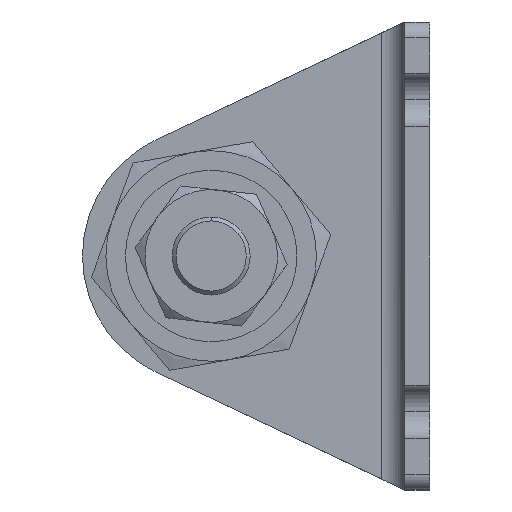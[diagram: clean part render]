
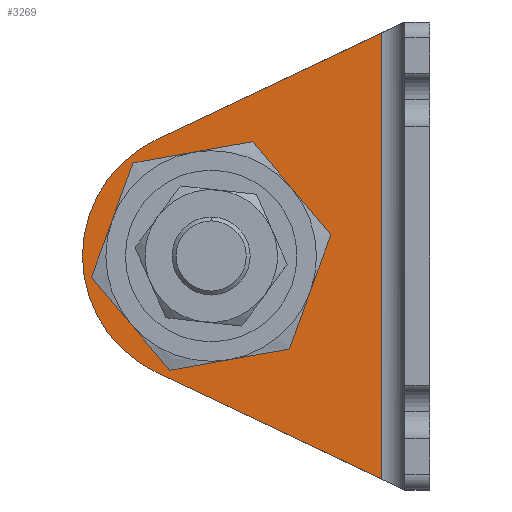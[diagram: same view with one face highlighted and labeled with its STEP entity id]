
A CAD part, left-side view. The second image highlights one B-rep face of the part: STEP entity #3269.
In plain terms, the highlighted planar face has unit normal (-1, 0, 0) as drawn and (1, 0, 0) by its records, which use the part's own axes.
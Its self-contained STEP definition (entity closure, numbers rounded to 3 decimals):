
#205 = EDGE_CURVE ( 'NONE', #404, #1587, #4832, .T. ) ;
#231 = CARTESIAN_POINT ( 'NONE',  ( 3.2, 28., -30. ) ) ;
#345 = PLANE ( 'NONE',  #3717 ) ;
#404 = VERTEX_POINT ( 'NONE', #489 ) ;
#431 = LINE ( 'NONE', #5033, #4466 ) ;
#467 = CARTESIAN_POINT ( 'NONE',  ( 3.2, 28., -30. ) ) ;
#489 = CARTESIAN_POINT ( 'NONE',  ( 3.2, 39.5, -30. ) ) ;
#523 = ORIENTED_EDGE ( 'NONE', *, *, #5247, .T. ) ;
#560 = VERTEX_POINT ( 'NONE', #3329 ) ;
#566 = CARTESIAN_POINT ( 'NONE',  ( 3.2, 6.2, -1.421 ) ) ;
#632 = EDGE_CURVE ( 'NONE', #5020, #4555, #1367, .T. ) ;
#661 = VERTEX_POINT ( 'NONE', #2587 ) ;
#688 = ORIENTED_EDGE ( 'NONE', *, *, #3258, .T. ) ;
#769 = FACE_BOUND ( 'NONE', #2265, .T. ) ;
#820 = CARTESIAN_POINT ( 'NONE',  ( 3.2, 6.2, -60. ) ) ;
#860 = AXIS2_PLACEMENT_3D ( 'NONE', #1151, #4423, #1864 ) ;
#1063 = AXIS2_PLACEMENT_3D ( 'NONE', #2100, #1905, #2967 ) ;
#1151 = CARTESIAN_POINT ( 'NONE',  ( 3.2, 28., -30. ) ) ;
#1293 = ORIENTED_EDGE ( 'NONE', *, *, #205, .F. ) ;
#1337 = CARTESIAN_POINT ( 'NONE',  ( 3.2, 16.5, -30. ) ) ;
#1367 = LINE ( 'NONE', #820, #3184 ) ;
#1571 = ORIENTED_EDGE ( 'NONE', *, *, #632, .T. ) ;
#1587 = VERTEX_POINT ( 'NONE', #1337 ) ;
#1708 = DIRECTION ( 'NONE',  ( 0., 0.904, -0.428 ) ) ;
#1852 = ORIENTED_EDGE ( 'NONE', *, *, #3427, .T. ) ;
#1864 = DIRECTION ( 'NONE',  ( 0., 1., 0. ) ) ;
#1893 = DIRECTION ( 'NONE',  ( 0., 1., 0. ) ) ;
#1895 = DIRECTION ( 'NONE',  ( 0., 0., -1. ) ) ;
#1905 = DIRECTION ( 'NONE',  ( 1., 0., 0. ) ) ;
#2100 = CARTESIAN_POINT ( 'NONE',  ( 3.2, 28., -30. ) ) ;
#2165 = AXIS2_PLACEMENT_3D ( 'NONE', #231, #3156, #3783 ) ;
#2265 = EDGE_LOOP ( 'NONE', ( #1293, #4750 ) ) ;
#2471 = DIRECTION ( 'NONE',  ( 1., 0., 0. ) ) ;
#2587 = CARTESIAN_POINT ( 'NONE',  ( 3.2, 35.062, -15.087 ) ) ;
#2712 = VECTOR ( 'NONE', #1708, 1000. ) ;
#2967 = DIRECTION ( 'NONE',  ( 0., 1., 0. ) ) ;
#3156 = DIRECTION ( 'NONE',  ( 1., 0., 0. ) ) ;
#3184 = VECTOR ( 'NONE', #1895, 1000. ) ;
#3258 = EDGE_CURVE ( 'NONE', #4555, #560, #431, .T. ) ;
#3269 = ADVANCED_FACE ( 'NONE', ( #4501, #769 ), #345, .T. ) ;
#3329 = CARTESIAN_POINT ( 'NONE',  ( 3.2, 35.062, -44.913 ) ) ;
#3427 = EDGE_CURVE ( 'NONE', #3568, #661, #4816, .T. ) ;
#3442 = CARTESIAN_POINT ( 'NONE',  ( 3.2, 3.2, -60. ) ) ;
#3526 = DIRECTION ( 'NONE',  ( 0., 0.904, 0.428 ) ) ;
#3568 = VERTEX_POINT ( 'NONE', #4712 ) ;
#3676 = AXIS2_PLACEMENT_3D ( 'NONE', #467, #4819, #1893 ) ;
#3717 = AXIS2_PLACEMENT_3D ( 'NONE', #3442, #2471, #3989 ) ;
#3783 = DIRECTION ( 'NONE',  ( 0., 1., 0. ) ) ;
#3858 = CIRCLE ( 'NONE', #1063, 11.5 ) ;
#3895 = EDGE_CURVE ( 'NONE', #1587, #404, #3858, .T. ) ;
#3989 = DIRECTION ( 'NONE',  ( 0., 1., 0. ) ) ;
#4024 = CARTESIAN_POINT ( 'NONE',  ( 3.2, 26.408, -10.99 ) ) ;
#4378 = EDGE_CURVE ( 'NONE', #5020, #661, #4622, .T. ) ;
#4423 = DIRECTION ( 'NONE',  ( 1., 0., 0. ) ) ;
#4466 = VECTOR ( 'NONE', #3526, 1000. ) ;
#4483 = EDGE_LOOP ( 'NONE', ( #5268, #1571, #688, #523, #1852 ) ) ;
#4501 = FACE_OUTER_BOUND ( 'NONE', #4483, .T. ) ;
#4555 = VERTEX_POINT ( 'NONE', #4836 ) ;
#4622 = LINE ( 'NONE', #4024, #2712 ) ;
#4650 = CIRCLE ( 'NONE', #3676, 16.5 ) ;
#4712 = CARTESIAN_POINT ( 'NONE',  ( 3.2, 44.5, -30. ) ) ;
#4750 = ORIENTED_EDGE ( 'NONE', *, *, #3895, .F. ) ;
#4816 = CIRCLE ( 'NONE', #860, 16.5 ) ;
#4819 = DIRECTION ( 'NONE',  ( 1., 0., 0. ) ) ;
#4832 = CIRCLE ( 'NONE', #2165, 11.5 ) ;
#4836 = CARTESIAN_POINT ( 'NONE',  ( 3.2, 6.2, -58.579 ) ) ;
#5020 = VERTEX_POINT ( 'NONE', #566 ) ;
#5033 = CARTESIAN_POINT ( 'NONE',  ( 3.2, 3.2, -60. ) ) ;
#5247 = EDGE_CURVE ( 'NONE', #560, #3568, #4650, .T. ) ;
#5268 = ORIENTED_EDGE ( 'NONE', *, *, #4378, .F. ) ;
